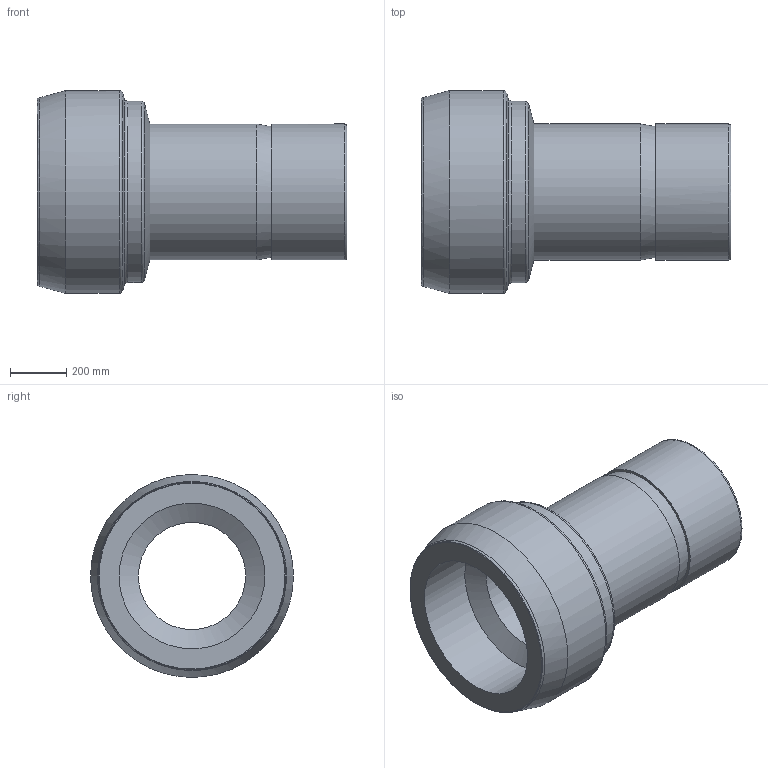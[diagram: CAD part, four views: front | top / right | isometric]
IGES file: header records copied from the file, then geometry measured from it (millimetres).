
Global section: file name: SRPC-16-12; native system: Autodesk Inventor 2016; preprocessor: unknown; author: DESIGNPC2; date: 20151219.134329; units: millimetre
Bounding box: 1102.36 x 721.36 x 721.35 mm (x, y, z)
Volume: 132942888.5 mm3; surface area: 3785650.6 mm2
Topology: 1 solids, 1 shells, 20 faces, 65 edges, 48 vertices
Faces by surface type: bspline 20
